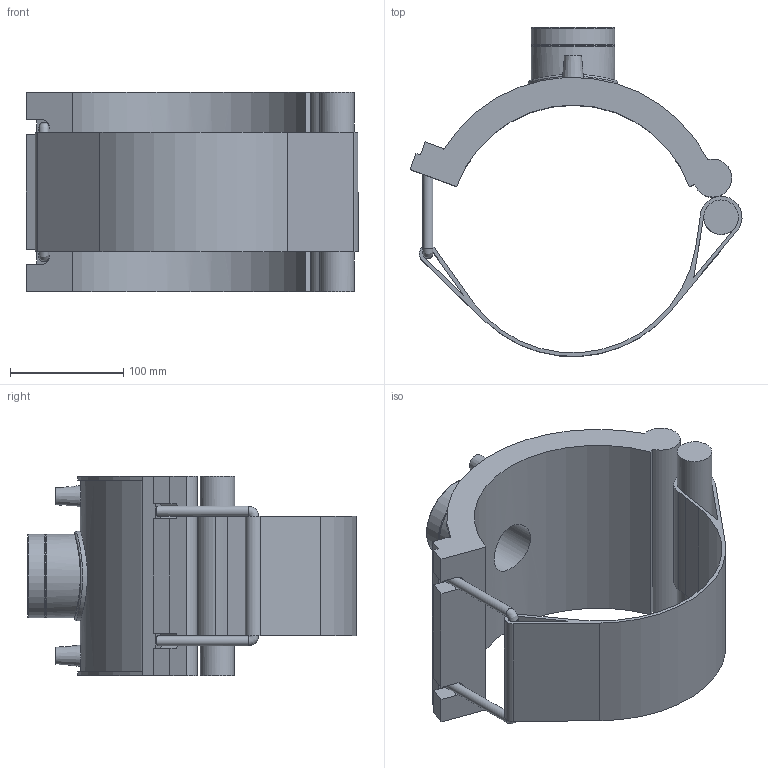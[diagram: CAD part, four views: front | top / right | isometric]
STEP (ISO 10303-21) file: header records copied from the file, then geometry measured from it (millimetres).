
FILE_DESCRIPTION(/* description */ ('PLASSON TRANSITION SADDLE 8''''IPS x 2"NPT'),/* implementation_level */ '2;1');
FILE_NAME(/* name */ 'C:\Dropbox\KIMPROJECTS-Inventor 2019\99-16-3568-Processing Inch\ASTM ElectroFusion 2021\5938B\5938B00308055.ipt.stp',/* time_stamp */ '2021-08-30T09:51:26+03:00',/* author */ ('KIM'),/* organization */ (''),/* preprocessor_version */ 'ST-DEVELOPER v17.2',/* originating_system */ 'Autodesk Inventor 2019',/* authorisation */ '');
FILE_SCHEMA (('AUTOMOTIVE_DESIGN { 1 0 10303 214 3 1 1 }'));
Length unit declared in the file: inch
Products named in the file (1): 5938B00308055
Bounding box: 293.08 x 290.42 x 176.02 mm (x, y, z)
Volume: 1763784.7 mm3; surface area: 301051 mm2
Topology: 1 solids, 1 shells, 78 faces, 196 edges, 128 vertices
Faces by surface type: plane 42, cylinder 28, cone 5, torus 2, bspline 1
Full cylindrical faces by diameter (mm): 4 x2, 8.748 x2, 10 x2, 30.45 x1, 45.325 x1, 56.656 x1, 72.653 x1, 73.653 x2, 79.318 x1
Entity records: 2806 total; most frequent: CARTESIAN_POINT 815, DIRECTION 414, ORIENTED_EDGE 394, EDGE_CURVE 197, AXIS2_PLACEMENT_3D 150, VERTEX_POINT 128, LINE 114, VECTOR 114
